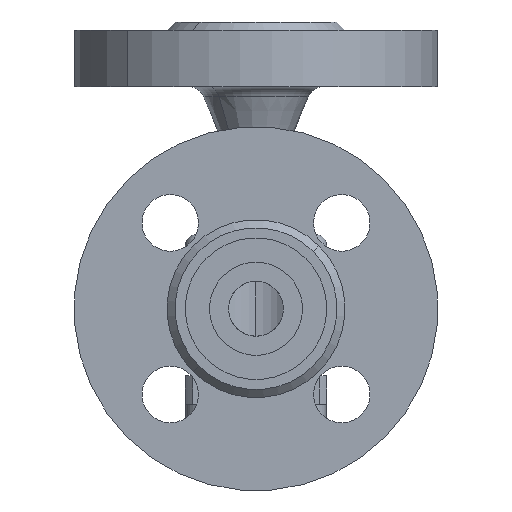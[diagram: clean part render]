
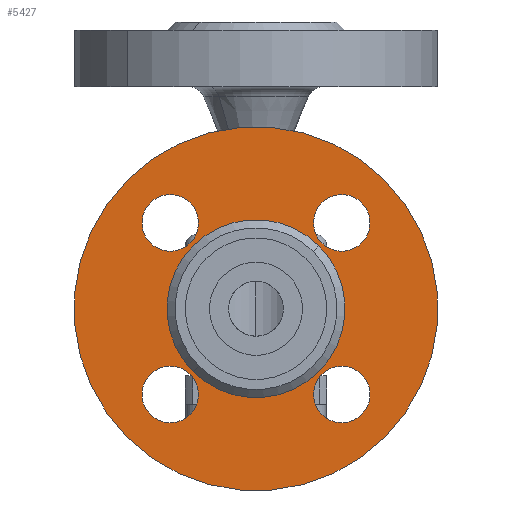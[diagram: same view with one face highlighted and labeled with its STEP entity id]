
A CAD part, left-side view. The second image highlights one B-rep face of the part: STEP entity #5427.
In plain terms, the highlighted planar face has unit normal (-1, 0, 0) as drawn and (0, -1, 0) by its records, which use the part's own axes.
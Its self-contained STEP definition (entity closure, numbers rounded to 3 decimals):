
#79 = ORIENTED_EDGE ( 'NONE', *, *, #7963, .T. ) ;
#301 = CARTESIAN_POINT ( 'NONE',  ( -23., 2., 0. ) ) ;
#664 = ORIENTED_EDGE ( 'NONE', *, *, #5446, .T. ) ;
#800 = CIRCLE ( 'NONE', #801, 22. ) ;
#801 = AXIS2_PLACEMENT_3D ( 'NONE', #802, #803, #804 ) ;
#802 = CARTESIAN_POINT ( 'NONE',  ( 0., 2., 0. ) ) ;
#803 = DIRECTION ( 'NONE',  ( 0., 1., 0. ) ) ;
#804 = DIRECTION ( 'NONE',  ( -1., 0., 0. ) ) ;
#985 = EDGE_CURVE ( 'NONE', #7899, #10483, #10041, .T. ) ;
#1289 = ORIENTED_EDGE ( 'NONE', *, *, #7594, .T. ) ;
#1308 = CARTESIAN_POINT ( 'NONE',  ( -45., 2., 0. ) ) ;
#1382 = CIRCLE ( 'NONE', #1383, 45. ) ;
#1383 = AXIS2_PLACEMENT_3D ( 'NONE', #1384, #1385, #1386 ) ;
#1384 = CARTESIAN_POINT ( 'NONE',  ( 0., 2., 0. ) ) ;
#1385 = DIRECTION ( 'NONE',  ( 0., 1., 0. ) ) ;
#1386 = DIRECTION ( 'NONE',  ( -1., 0., 0. ) ) ;
#1487 = VERTEX_POINT ( 'NONE', #10274 ) ;
#1756 = CARTESIAN_POINT ( 'NONE',  ( 23., 2., 0. ) ) ;
#1923 = CIRCLE ( 'NONE', #1924, 7. ) ;
#1924 = AXIS2_PLACEMENT_3D ( 'NONE', #1925, #1926, #1927 ) ;
#1925 = CARTESIAN_POINT ( 'NONE',  ( 0., 2., -30. ) ) ;
#1926 = DIRECTION ( 'NONE',  ( 0., 1., 0. ) ) ;
#1927 = DIRECTION ( 'NONE',  ( -1., 0., 0. ) ) ;
#2507 = VERTEX_POINT ( 'NONE', #11350 ) ;
#2680 = VERTEX_POINT ( 'NONE', #301 ) ;
#3367 = CARTESIAN_POINT ( 'NONE',  ( 22., 2., 0. ) ) ;
#3456 = VERTEX_POINT ( 'NONE', #1756 ) ;
#5110 = CARTESIAN_POINT ( 'NONE',  ( 45., 2., 0. ) ) ;
#5355 = EDGE_LOOP ( 'NONE', ( #9009, #7627 ) ) ;
#5397 = CIRCLE ( 'NONE', #5398, 7. ) ;
#5398 = AXIS2_PLACEMENT_3D ( 'NONE', #5399, #5400, #5401 ) ;
#5399 = CARTESIAN_POINT ( 'NONE',  ( -30., 2., 0. ) ) ;
#5400 = DIRECTION ( 'NONE',  ( 0., 1., 0. ) ) ;
#5401 = DIRECTION ( 'NONE',  ( -1., 0., 0. ) ) ;
#5427 = ADVANCED_FACE ( 'NONE', ( #5640, #5643, #5644, #5645, #5646, #5647 ), #5648, .F. ) ;
#5446 = EDGE_CURVE ( 'NONE', #8939, #7863, #5654, .T. ) ;
#5538 = CIRCLE ( 'NONE', #5539, 7. ) ;
#5539 = AXIS2_PLACEMENT_3D ( 'NONE', #5540, #5541, #5542 ) ;
#5540 = CARTESIAN_POINT ( 'NONE',  ( 0., 2., 30. ) ) ;
#5541 = DIRECTION ( 'NONE',  ( 0., 1., 0. ) ) ;
#5542 = DIRECTION ( 'NONE',  ( -1., 0., 0. ) ) ;
#5640 = FACE_BOUND ( 'NONE', #7517, .T. ) ;
#5643 = FACE_BOUND ( 'NONE', #5355, .T. ) ;
#5644 = FACE_BOUND ( 'NONE', #7612, .T. ) ;
#5645 = FACE_BOUND ( 'NONE', #7563, .T. ) ;
#5646 = FACE_OUTER_BOUND ( 'NONE', #6745, .T. ) ;
#5647 = FACE_BOUND ( 'NONE', #7790, .T. ) ;
#5648 = PLANE ( 'NONE',  #5649 ) ;
#5649 = AXIS2_PLACEMENT_3D ( 'NONE', #5650, #5651, #5652 ) ;
#5650 = CARTESIAN_POINT ( 'NONE',  ( 22., 2., 0. ) ) ;
#5651 = DIRECTION ( 'NONE',  ( 0., 1., 0. ) ) ;
#5652 = DIRECTION ( 'NONE',  ( -1., 0., 0. ) ) ;
#5654 = CIRCLE ( 'NONE', #5655, 22. ) ;
#5655 = AXIS2_PLACEMENT_3D ( 'NONE', #5656, #5657, #5658 ) ;
#5656 = CARTESIAN_POINT ( 'NONE',  ( 0., 2., 0. ) ) ;
#5657 = DIRECTION ( 'NONE',  ( 0., 1., 0. ) ) ;
#5658 = DIRECTION ( 'NONE',  ( -1., 0., 0. ) ) ;
#5740 = CIRCLE ( 'NONE', #5741, 7. ) ;
#5741 = AXIS2_PLACEMENT_3D ( 'NONE', #5742, #5743, #5744 ) ;
#5742 = CARTESIAN_POINT ( 'NONE',  ( 0., 2., 30. ) ) ;
#5743 = DIRECTION ( 'NONE',  ( 0., 1., 0. ) ) ;
#5744 = DIRECTION ( 'NONE',  ( -1., 0., 0. ) ) ;
#5883 = CARTESIAN_POINT ( 'NONE',  ( 7., 2., -30. ) ) ;
#5892 = VERTEX_POINT ( 'NONE', #5907 ) ;
#5907 = CARTESIAN_POINT ( 'NONE',  ( 7., 2., 30. ) ) ;
#5908 = CARTESIAN_POINT ( 'NONE',  ( -7., 2., -30. ) ) ;
#5911 = VERTEX_POINT ( 'NONE', #5908 ) ;
#6296 = ORIENTED_EDGE ( 'NONE', *, *, #10537, .F. ) ;
#6745 = EDGE_LOOP ( 'NONE', ( #6296, #7808 ) ) ;
#7318 = EDGE_CURVE ( 'NONE', #7863, #8939, #800, .T. ) ;
#7361 = ORIENTED_EDGE ( 'NONE', *, *, #7318, .T. ) ;
#7379 = EDGE_CURVE ( 'NONE', #8464, #5911, #1923, .T. ) ;
#7517 = EDGE_LOOP ( 'NONE', ( #1289, #10835 ) ) ;
#7552 = EDGE_CURVE ( 'NONE', #2507, #2680, #10022, .T. ) ;
#7563 = EDGE_LOOP ( 'NONE', ( #7693, #7924 ) ) ;
#7594 = EDGE_CURVE ( 'NONE', #5911, #8464, #10180, .T. ) ;
#7612 = EDGE_LOOP ( 'NONE', ( #79, #9766 ) ) ;
#7627 = ORIENTED_EDGE ( 'NONE', *, *, #7948, .T. ) ;
#7652 = EDGE_CURVE ( 'NONE', #3456, #7661, #10819, .T. ) ;
#7661 = VERTEX_POINT ( 'NONE', #10871 ) ;
#7671 = EDGE_CURVE ( 'NONE', #7661, #3456, #11001, .T. ) ;
#7693 = ORIENTED_EDGE ( 'NONE', *, *, #7652, .T. ) ;
#7790 = EDGE_LOOP ( 'NONE', ( #664, #7361 ) ) ;
#7808 = ORIENTED_EDGE ( 'NONE', *, *, #985, .F. ) ;
#7863 = VERTEX_POINT ( 'NONE', #3367 ) ;
#7899 = VERTEX_POINT ( 'NONE', #5110 ) ;
#7924 = ORIENTED_EDGE ( 'NONE', *, *, #7671, .T. ) ;
#7948 = EDGE_CURVE ( 'NONE', #2680, #2507, #5397, .T. ) ;
#7963 = EDGE_CURVE ( 'NONE', #1487, #5892, #5538, .T. ) ;
#8336 = EDGE_CURVE ( 'NONE', #5892, #1487, #5740, .T. ) ;
#8464 = VERTEX_POINT ( 'NONE', #5883 ) ;
#8939 = VERTEX_POINT ( 'NONE', #10562 ) ;
#9009 = ORIENTED_EDGE ( 'NONE', *, *, #7552, .T. ) ;
#9766 = ORIENTED_EDGE ( 'NONE', *, *, #8336, .T. ) ;
#10022 = CIRCLE ( 'NONE', #10023, 7. ) ;
#10023 = AXIS2_PLACEMENT_3D ( 'NONE', #10024, #10025, #10026 ) ;
#10024 = CARTESIAN_POINT ( 'NONE',  ( -30., 2., 0. ) ) ;
#10025 = DIRECTION ( 'NONE',  ( 0., 1., 0. ) ) ;
#10026 = DIRECTION ( 'NONE',  ( -1., 0., 0. ) ) ;
#10041 = CIRCLE ( 'NONE', #10042, 45. ) ;
#10042 = AXIS2_PLACEMENT_3D ( 'NONE', #10043, #10044, #10045 ) ;
#10043 = CARTESIAN_POINT ( 'NONE',  ( 0., 2., 0. ) ) ;
#10044 = DIRECTION ( 'NONE',  ( 0., 1., 0. ) ) ;
#10045 = DIRECTION ( 'NONE',  ( -1., 0., 0. ) ) ;
#10180 = CIRCLE ( 'NONE', #10181, 7. ) ;
#10181 = AXIS2_PLACEMENT_3D ( 'NONE', #10182, #10183, #10184 ) ;
#10182 = CARTESIAN_POINT ( 'NONE',  ( 0., 2., -30. ) ) ;
#10183 = DIRECTION ( 'NONE',  ( 0., 1., 0. ) ) ;
#10184 = DIRECTION ( 'NONE',  ( -1., 0., 0. ) ) ;
#10274 = CARTESIAN_POINT ( 'NONE',  ( -7., 2., 30. ) ) ;
#10483 = VERTEX_POINT ( 'NONE', #1308 ) ;
#10537 = EDGE_CURVE ( 'NONE', #10483, #7899, #1382, .T. ) ;
#10562 = CARTESIAN_POINT ( 'NONE',  ( -22., 2., 0. ) ) ;
#10819 = CIRCLE ( 'NONE', #10820, 7. ) ;
#10820 = AXIS2_PLACEMENT_3D ( 'NONE', #10821, #10822, #10823 ) ;
#10821 = CARTESIAN_POINT ( 'NONE',  ( 30., 2., 0. ) ) ;
#10822 = DIRECTION ( 'NONE',  ( 0., 1., 0. ) ) ;
#10823 = DIRECTION ( 'NONE',  ( -1., 0., 0. ) ) ;
#10835 = ORIENTED_EDGE ( 'NONE', *, *, #7379, .T. ) ;
#10871 = CARTESIAN_POINT ( 'NONE',  ( 37., 2., 0. ) ) ;
#11001 = CIRCLE ( 'NONE', #11002, 7. ) ;
#11002 = AXIS2_PLACEMENT_3D ( 'NONE', #11003, #11004, #11005 ) ;
#11003 = CARTESIAN_POINT ( 'NONE',  ( 30., 2., 0. ) ) ;
#11004 = DIRECTION ( 'NONE',  ( 0., 1., 0. ) ) ;
#11005 = DIRECTION ( 'NONE',  ( -1., 0., 0. ) ) ;
#11350 = CARTESIAN_POINT ( 'NONE',  ( -37., 2., 0. ) ) ;
